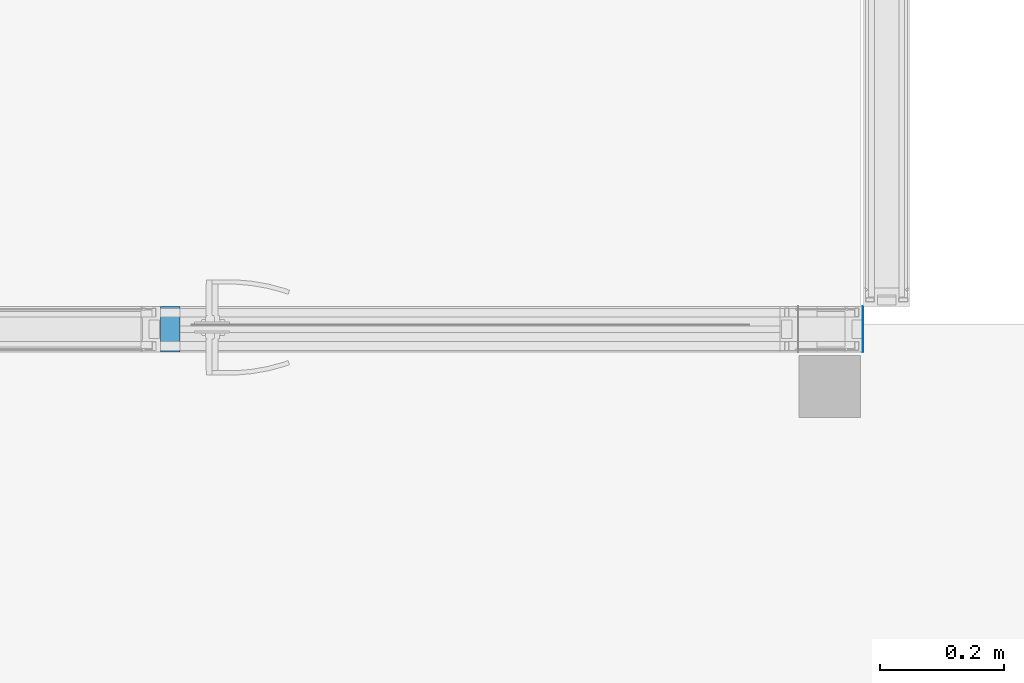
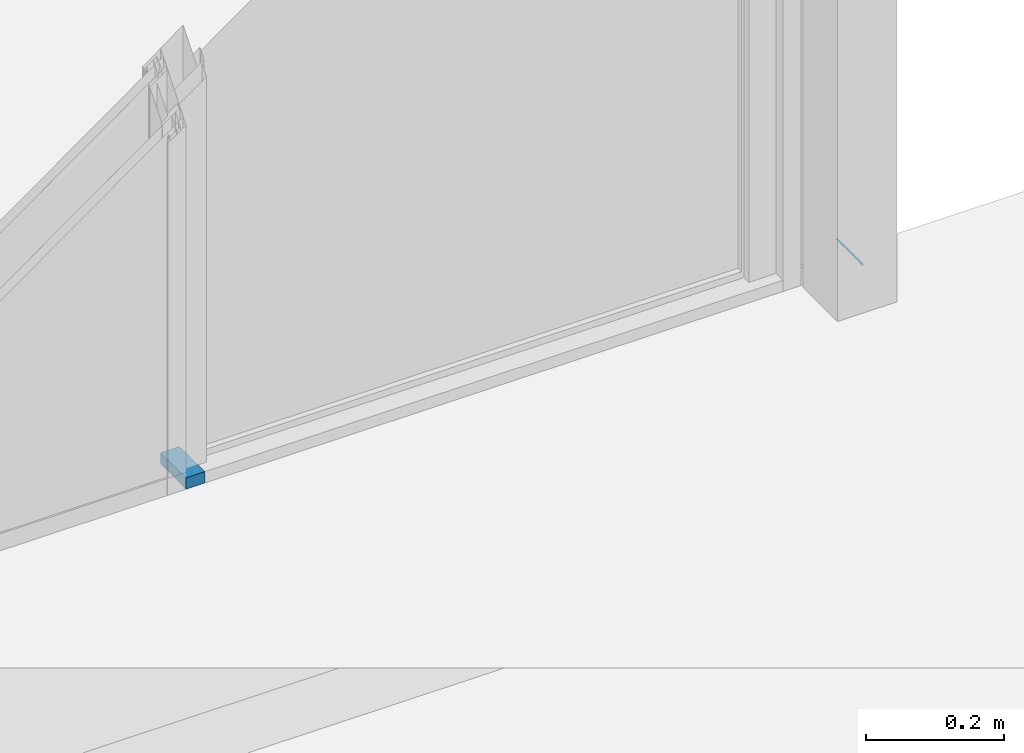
# One storey, part 23 of 387: 2 members, 1 element without a shape of its own.
"""IFC2X3 building model written with IfcOpenShell, lengths in millimetres."""

from ifc_helpers import new_model, entity, si_unit, converted_unit, derived_unit, money_unit, direction, frame, origin_with_axes, place, context, subcontext, project, spatial, polyline, outline, extrude, clip, halfspace, material, type_object, element, aggregate, save


model = new_model("IFC2X3")

# Units and contexts
model_context = context("Model", 3, precision=0.01, world=origin_with_axes(), true_north=direction((0.0, 1.0)))
body_context = subcontext(model_context, "Body", "Model", "MODEL_VIEW")
ifc_project = project(units=[si_unit("LENGTHUNIT", "METRE", prefix="MILLI"), si_unit("AREAUNIT", "SQUARE_METRE"), si_unit("VOLUMEUNIT", "CUBIC_METRE"), converted_unit("PLANEANGLEUNIT", "DEGREE", entity("IfcPlaneAngleMeasure", 0.0174532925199), si_unit("PLANEANGLEUNIT", "RADIAN"), dimensions=[0, 0, 0, 0, 0, 0, 0]), si_unit("SOLIDANGLEUNIT", "STERADIAN"), money_unit("EUR"), converted_unit("TIMEUNIT", "Year", entity("IfcTimeMeasure", 31556926.0), si_unit("TIMEUNIT", "SECOND"), dimensions=[0, 0, 1, 0, 0, 0, 0]), si_unit("MASSUNIT", "GRAM", prefix="KILO"), si_unit("THERMODYNAMICTEMPERATUREUNIT", "DEGREE_CELSIUS"), si_unit("LUMINOUSINTENSITYUNIT", "LUMEN"), si_unit("ENERGYUNIT", "JOULE", prefix="MEGA"), derived_unit("THERMALCONDUCTANCEUNIT", [(si_unit("POWERUNIT", "WATT"), 1), (si_unit("LENGTHUNIT", "METRE"), -1), (si_unit("THERMODYNAMICTEMPERATUREUNIT", "KELVIN"), -1)]), derived_unit("SPECIFICHEATCAPACITYUNIT", [(si_unit("ENERGYUNIT", "JOULE"), 1), (si_unit("MASSUNIT", "GRAM", prefix="KILO"), -1), (si_unit("THERMODYNAMICTEMPERATUREUNIT", "KELVIN"), -1)]), derived_unit("MASSDENSITYUNIT", [(si_unit("MASSUNIT", "GRAM", prefix="KILO"), 1), (si_unit("VOLUMEUNIT", "CUBIC_METRE"), -1)])], contexts=[model_context])

# Site, building, storey
site_placement = place(None, origin_with_axes())
site = spatial("IfcSite", under=ifc_project, at=site_placement, Name="Puškini 31, Narva", CompositionType="ELEMENT")
building_placement = place(site_placement, origin_with_axes())
building = spatial("IfcBuilding", under=site, at=building_placement, Name="Narva Riigigümnaasium", CompositionType="ELEMENT")
storey_placement = place(building_placement, frame((0.0, 0.0, 2640.0), z_axis=(0.0, 0.0, 1.0), x_axis=(1.0, 0.0, 0.0)))
storey = spatial("IfcBuildingStorey", under=building, at=storey_placement, Name="2.korrus +2.64", CompositionType="ELEMENT", Elevation=2640.0)

# Curtain wall, members
curtain_wall_type = type_object("IfcCurtainWallType", Name="Curtain Wall Type", PredefinedType="NOTDEFINED")
curtain_wall_placement = place(storey_placement, frame((41281.9672345, 175592.500019, -3.22566622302e-05), z_axis=(0.0, 0.0, 1.0), x_axis=(1.0, 0.0, 0.0)))
curtain_wall = element("IfcCurtainWall", 1, at=curtain_wall_placement, inside=storey, type_object=curtain_wall_type, Name="G-SKLF-38")
ifc_material_1 = material(Name="ET-04_Alumiinium")
member_type_1 = type_object("IfcMemberType", Name="20 x 74", PredefinedType="MULLION")
member_1_placement = place(curtain_wall_placement, frame((-1063.6642258, 1.90425453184e-09, 0.0), z_axis=(1.0, 0.0, 0.0), x_axis=(0.0, 0.0, 1.0)))
member_1 = element("IfcMember", 2, at=member_1_placement, type_object=member_type_1, material=ifc_material_1, Name="G-SKLF-80-raam", ObjectType="MULLION", context=body_context, shape_type="SweptSolid", body=[
    extrude(outline(polyline([(-37.0, -20.0), (37.0, -20.0), (37.0, 0.0), (-37.0, 0.0), (-37.0, -20.0)])), frame((0.0, 0.0, 0.0), z_axis=(0.0, 0.0, 1.0), x_axis=(0.0, 1.0, 0.0)), (0.0, 0.0, 1.0), 31.5481267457),
])
ifc_material_2 = material(Name="Teras RAL7012")
member_type_2 = type_object("IfcMemberType", Name="Boundary Frame 30 x 37", PredefinedType="MULLION")
member_2_placement = place(curtain_wall_placement, frame((71.5327378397, -1.13686837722e-10, 0.0), z_axis=(1.0, 0.0, 0.0), x_axis=(0.0, 0.0, 1.0)))
member_2 = element("IfcMember", 3, at=member_2_placement, type_object=member_type_2, material=ifc_material_2, Name="G-SKLF-40-raam", ObjectType="MULLION", context=body_context, shape_type="Clipping", body=[
    clip(extrude(outline(polyline([(-17.0000000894, -1.00001782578), (17.0000000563, -1.00001782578), (17.0000000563, 0.0), (-17.0000000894, 0.0), (-17.0000000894, -1.00001782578)])), frame((0.0, 0.0, 0.0), z_axis=(0.0, 0.0, 1.0), x_axis=(0.0, 1.0, 0.0)), (0.0, 0.0, 1.0), 1.00001780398), halfspace(frame((0.500008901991, 0.0, 0.500008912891), z_axis=(-0.707106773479, 0.0, -0.707106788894), x_axis=(0.0, 1.0, 0.0)), True)),
    clip(extrude(outline(polyline([(17.0000000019, -1.00001782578), (37.0, -1.00001782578), (37.0, 0.0), (17.0, 0.0), (17.0000000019, -1.00001782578)])), frame((0.0, 0.0, 0.0), z_axis=(0.0, 0.0, 1.0), x_axis=(0.0, 1.0, 0.0)), (0.0, 0.0, 1.0), 1.00001780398), halfspace(frame((0.500008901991, 0.0, 0.500008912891), z_axis=(-0.707106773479, 0.0, -0.707106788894), x_axis=(0.0, 1.0, 0.0)), True)),
    clip(extrude(outline(polyline([(-37.0, -1.00001782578), (-17.000000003, -1.00001782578), (-17.0, 0.0), (-37.0, 0.0), (-37.0, -1.00001782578)])), frame((0.0, 0.0, 0.0), z_axis=(0.0, 0.0, 1.0), x_axis=(0.0, 1.0, 0.0)), (0.0, 0.0, 1.0), 1.00001780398), halfspace(frame((0.500008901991, 0.0, 0.500008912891), z_axis=(-0.707106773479, 0.0, -0.707106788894), x_axis=(0.0, 1.0, 0.0)), True)),
])
aggregate(curtain_wall, [member_1, member_2])

save(model, "model.ifc")
